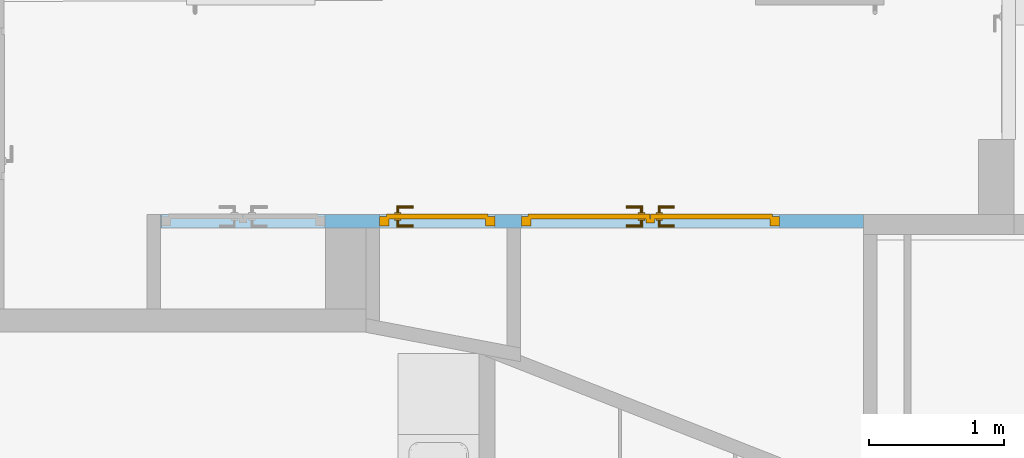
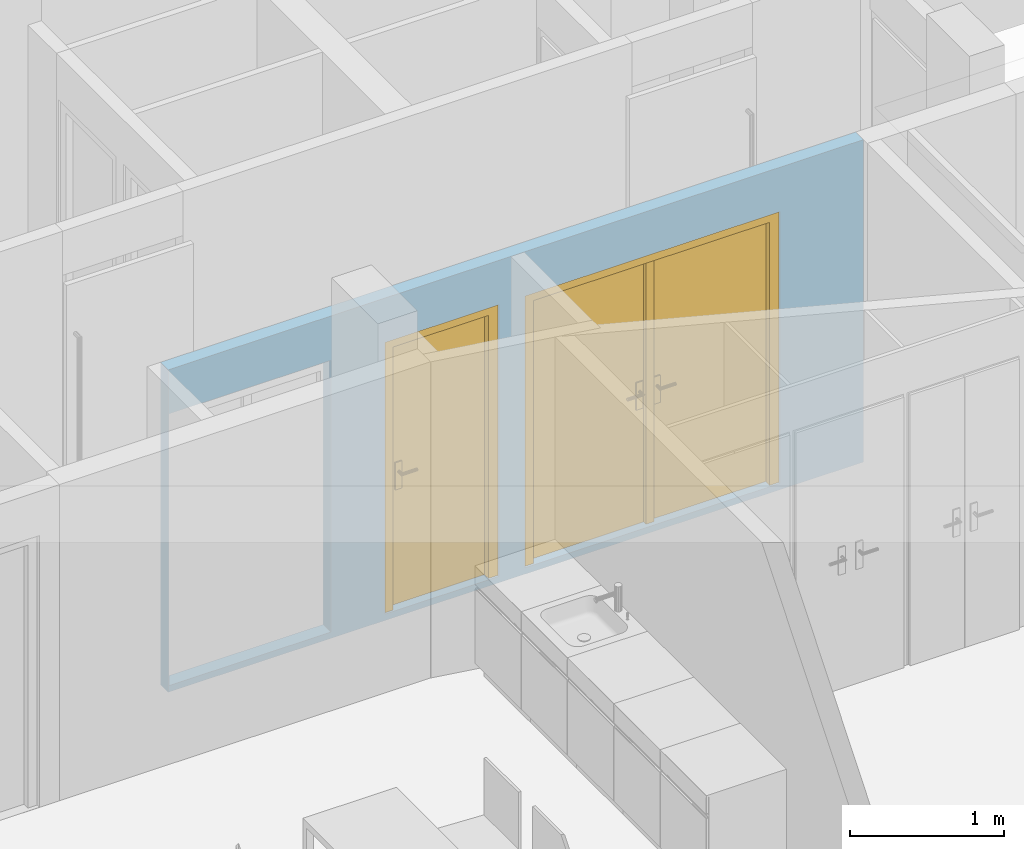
"""IFC4 building model written with IfcOpenShell, lengths in metres."""

from ifc_helpers import new_model, entity, si_unit, converted_unit, derived_unit, frame, frame_2d, origin, origin_with_axes, place, context, subcontext, project, spatial, polyline, rectangle, outline, extrude, faceted_brep, source, transform, mapped, material, layer, layer_set, layer_usage, element, fill, save


model = new_model("IFC4")

# Units and contexts
model_context = context("Model", 3, precision=1e-05, world=origin())
body_context = subcontext(model_context, "Body", "Model", "MODEL_VIEW")
ifc_project = project(units=[si_unit("LENGTHUNIT", "METRE"), si_unit("AREAUNIT", "SQUARE_METRE"), si_unit("VOLUMEUNIT", "CUBIC_METRE"), si_unit("MASSUNIT", "GRAM", prefix="KILO"), converted_unit("PLANEANGLEUNIT", "DEGREE", entity("IfcPlaneAngleMeasure", 0.0174532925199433), si_unit("PLANEANGLEUNIT", "RADIAN"), dimensions=[0, 0, 0, 0, 0, 0, 0]), derived_unit("THERMALTRANSMITTANCEUNIT", [(si_unit("POWERUNIT", "WATT"), 1), (si_unit("THERMODYNAMICTEMPERATUREUNIT", "KELVIN"), -1), (si_unit("LENGTHUNIT", "METRE"), -2)]), derived_unit("VOLUMETRICFLOWRATEUNIT", [(si_unit("LENGTHUNIT", "METRE"), 3), (converted_unit("TIMEUNIT", "hour", entity("IfcTimeMeasure", 3600.0), si_unit("TIMEUNIT", "SECOND"), dimensions=[0, 0, 1, 0, 0, 0, 0]), -1), (si_unit("LENGTHUNIT", "METRE"), -1)])], contexts=[model_context])

# Building, storeys
building_placement = place(None, origin())
building = spatial("IfcBuilding", under=ifc_project, at=building_placement, Name="HABITATGE PLURIFAMILIAR", CompositionType="ELEMENT")
storey_1_placement = place(building_placement, frame((0.0, 0.0, 3.35)))
storey_1 = spatial("IfcBuildingStorey", under=building, at=storey_1_placement, Name="PLANTA  ALTELL", CompositionType="ELEMENT", Elevation=3.35)
storey_2_placement = place(storey_1_placement, origin())
storey_2 = spatial("IfcBuildingStorey", under=storey_1, at=storey_2_placement, Name="NOU", CompositionType="PARTIAL")

# Wall, openings, doors
ifc_material = material()
ifc_layer = layer(ifc_material, 0.1)
ifc_layer_set = layer_set([ifc_layer])
ifc_layer_usage = layer_usage(ifc_layer_set, "AXIS2", "POSITIVE", 0.0)
wall_placement = place(storey_2_placement, frame((409.716597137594, 24.3495914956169, -0.05), z_axis=(0.0, 0.0, 1.0), x_axis=(-1.0, 0.0, 0.0)))
wall = element("IfcWall", 1, at=wall_placement, inside=storey_2, material=ifc_layer_usage, Name="Evans PA", context=body_context, shape_type="SweptSolid", body=[
    extrude(rectangle(XDim=5.20093041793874, YDim=0.1, at=frame_2d((2.60046520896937, 0.05), x_axis=(1.0, 0.0))), origin_with_axes(), (0.0, 0.0, 1.0), 2.55),
])
opening_1_placement = place(wall_placement, frame((5.1938556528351, 0.1, 0.05), z_axis=(0.0, -1.0, 0.0), x_axis=(0.0, 0.0, 1.0)))
element("IfcOpeningElement", 2, at=opening_1_placement, cuts=wall, Name="Vano de puerta PA", ObjectType="Opening", context=body_context, shape_type="SweptSolid", body=[
    extrude(outline(polyline([(2.15, 1.20933157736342), (2.15, 0.0), (0.0, 0.0), (0.0, 1.20933157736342), (2.15, 1.20933157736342)])), origin_with_axes(), (0.0, 0.0, 1.0), 0.1),
])
opening_2_placement = place(wall_placement, frame((2.53158838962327, 0.1, 0.05), z_axis=(0.0, -1.0, 0.0), x_axis=(0.0, 0.0, 1.0)))
opening_2 = element("IfcOpeningElement", 3, at=opening_2_placement, cuts=wall, Name="Vano de puerta PA", ObjectType="Opening", context=body_context, shape_type="SweptSolid", body=[
    extrude(outline(polyline([(2.15, 1.90908991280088), (2.15, 0.0), (0.0, 0.0), (0.0, 1.90908991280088), (2.15, 1.90908991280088)])), origin_with_axes(), (0.0, 0.0, 1.0), 0.1),
])
opening_3_placement = place(wall_placement, frame((2.72701034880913, 0.0, 0.05), z_axis=(0.0, 1.0, 0.0), x_axis=(0.0, 0.0, 1.0)))
opening_3 = element("IfcOpeningElement", 4, at=opening_3_placement, cuts=wall, Name="Vano de puerta PA", ObjectType="Opening", context=body_context, shape_type="SweptSolid", body=[
    extrude(outline(polyline([(2.15, 0.853177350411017), (2.15, 0.0), (0.0, 0.0), (0.0, 0.853177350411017), (2.15, 0.853177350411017)])), origin_with_axes(), (0.0, 0.0, 1.0), 0.1),
])
shared_shape_1 = source(origin_with_axes(), body_context, "Body", "Brep", [
    faceted_brep([(0.0, 0.07, 2.15), (0.0, 0.07, 0.0), (0.07, 0.07, 0.0), (0.07, 0.07, 2.15), (0.0, 0.0, 0.0), (0.0, 0.0, 2.15), (0.07, 0.0, 2.15), (0.07, 0.0, 0.0)], [[[0, 1, 2, 3]], [[4, 5, 6, 7]], [[1, 0, 5, 4]], [[2, 1, 4, 7]], [[3, 2, 7, 6]], [[0, 3, 6, 5]]], orient=[[False], [False], [False], [False], [False], [False]]),
    faceted_brep([(1.83908991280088, 0.07, 2.15), (1.83908991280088, 0.07, 0.0), (1.90908991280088, 0.07, 0.0), (1.90908991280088, 0.07, 2.15), (1.83908991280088, 0.0, 0.0), (1.83908991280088, 0.0, 2.15), (1.90908991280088, 0.0, 2.15), (1.90908991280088, 0.0, 0.0)], [[[0, 1, 2, 3]], [[4, 5, 6, 7]], [[1, 0, 5, 4]], [[2, 1, 4, 7]], [[3, 2, 7, 6]], [[0, 3, 6, 5]]], orient=[[False], [False], [False], [False], [False], [False]]),
    faceted_brep([(0.07, 0.07, 2.15), (0.07, 0.07, 2.08), (1.83908991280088, 0.07, 2.08), (1.83908991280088, 0.07, 2.15), (0.07, 0.0, 2.08), (0.07, 0.0, 2.15), (1.83908991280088, 0.0, 2.15), (1.83908991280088, 0.0, 2.08)], [[[0, 1, 2, 3]], [[4, 5, 6, 7]], [[1, 0, 5, 4]], [[2, 1, 4, 7]], [[3, 2, 7, 6]], [[0, 3, 6, 5]]], orient=[[False], [False], [False], [False], [False], [False]]),
    faceted_brep([(0.05, 0.09, 2.1), (0.05, 0.09, 0.0), (0.954044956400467, 0.09, 0.0), (0.954044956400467, 0.09, 2.1), (0.05, 0.05, 0.0), (0.05, 0.05, 2.1), (0.954044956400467, 0.05, 2.1), (0.954044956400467, 0.05, 0.0)], [[[0, 1, 2, 3]], [[4, 5, 6, 7]], [[1, 0, 5, 4]], [[2, 1, 4, 7]], [[3, 2, 7, 6]], [[0, 3, 6, 5]]], orient=[[False], [False], [False], [False], [False], [False]]),
    faceted_brep([(0.924044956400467, 0.05, 2.08), (0.924044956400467, 0.05, 0.0), (0.984044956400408, 0.05, 0.0), (0.984044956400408, 0.05, 2.08), (0.924044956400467, 0.02, 0.0), (0.924044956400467, 0.02, 2.08), (0.984044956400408, 0.02, 2.08), (0.984044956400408, 0.02, 0.0)], [[[0, 1, 2, 3]], [[4, 5, 6, 7]], [[1, 0, 5, 4]], [[2, 1, 4, 7]], [[3, 2, 7, 6]], [[0, 3, 6, 5]]], orient=[[False], [False], [False], [False], [False], [False]]),
    faceted_brep([(0.864044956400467, 0.05, 1.125), (0.864044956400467, 0.05, 0.91), (0.914044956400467, 0.05, 0.91), (0.914044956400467, 0.05, 1.125), (0.864044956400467, 0.04, 0.91), (0.864044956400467, 0.04, 1.125), (0.914044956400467, 0.04, 1.125), (0.914044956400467, 0.04, 0.91)], [[[0, 1, 2, 3]], [[4, 5, 6, 7]], [[1, 0, 5, 4]], [[2, 1, 4, 7]], [[3, 2, 7, 6]], [[0, 3, 6, 5]]], orient=[[False], [False], [False], [False], [False], [False]]),
    faceted_brep([(0.889044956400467, 0.04, 1.06), (0.884044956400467, 0.04, 1.05866025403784), (0.880384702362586, 0.04, 1.055), (0.879044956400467, 0.04, 1.05), (0.880384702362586, 0.04, 1.045), (0.884044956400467, 0.04, 1.04133974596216), (0.889044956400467, 0.04, 1.04), (0.894044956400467, 0.04, 1.04133974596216), (0.897705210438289, 0.04, 1.045), (0.899044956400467, 0.04, 1.05), (0.897705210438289, 0.04, 1.055), (0.894044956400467, 0.04, 1.05866025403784), (0.894044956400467, -0.005, 1.05866025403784), (0.889044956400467, 0.0, 1.06), (0.897705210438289, -0.00866025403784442, 1.055), (0.899044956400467, -0.01, 1.05), (0.897705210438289, -0.00866025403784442, 1.045), (0.894044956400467, -0.005, 1.04133974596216), (0.889044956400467, 0.0, 1.04), (0.884044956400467, 0.005, 1.04133974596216), (0.880384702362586, 0.00866025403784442, 1.045), (0.879044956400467, 0.01, 1.05), (0.880384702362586, 0.00866025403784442, 1.055), (0.884044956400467, 0.005, 1.05866025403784), (0.774044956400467, 0.0, 1.06), (0.774044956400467, -0.005, 1.05866025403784), (0.774044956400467, -0.00866025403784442, 1.055), (0.774044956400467, -0.01, 1.05), (0.774044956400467, -0.00866025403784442, 1.045), (0.774044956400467, -0.005, 1.04133974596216), (0.774044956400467, 0.0, 1.04), (0.774044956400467, 0.005, 1.04133974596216), (0.774044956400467, 0.00866025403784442, 1.045), (0.774044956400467, 0.01, 1.05), (0.774044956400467, 0.00866025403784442, 1.055), (0.774044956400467, 0.005, 1.05866025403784)], [[[0, 1, 2, 3, 4, 5, 6, 7, 8, 9, 10, 11]], [[0, 11, 12, 13]], [[11, 10, 14, 12]], [[10, 9, 15, 14]], [[9, 8, 16, 15]], [[8, 7, 17, 16]], [[7, 6, 18, 17]], [[6, 5, 19, 18]], [[5, 4, 20, 19]], [[4, 3, 21, 20]], [[3, 2, 22, 21]], [[2, 1, 23, 22]], [[1, 0, 13, 23]], [[24, 25, 26, 27, 28, 29, 30, 31, 32, 33, 34, 35]], [[13, 12, 25, 24]], [[12, 14, 26, 25]], [[14, 15, 27, 26]], [[15, 16, 28, 27]], [[16, 17, 29, 28]], [[17, 18, 30, 29]], [[18, 19, 31, 30]], [[19, 20, 32, 31]], [[20, 21, 33, 32]], [[21, 22, 34, 33]], [[22, 23, 35, 34]], [[23, 13, 24, 35]]], orient=[[False], [False], [False], [False], [False], [False], [False], [False], [False], [False], [False], [False], [False], [False], [False], [False], [False], [False], [False], [False], [False], [False], [False], [False], [False], [False]]),
    faceted_brep([(0.864044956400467, 0.09, 1.125), (0.914044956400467, 0.09, 1.125), (0.914044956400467, 0.09, 0.91), (0.864044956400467, 0.09, 0.91), (0.864044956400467, 0.1, 0.91), (0.914044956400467, 0.1, 0.91), (0.914044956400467, 0.1, 1.125), (0.864044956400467, 0.1, 1.125)], [[[0, 1, 2, 3]], [[4, 5, 6, 7]], [[3, 4, 7, 0]], [[2, 5, 4, 3]], [[1, 6, 5, 2]], [[0, 7, 6, 1]]], orient=[[False], [False], [False], [False], [False], [False]]),
    faceted_brep([(0.889044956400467, 0.1, 1.06), (0.894044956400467, 0.1, 1.05866025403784), (0.897705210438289, 0.1, 1.055), (0.899044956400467, 0.1, 1.05), (0.897705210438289, 0.1, 1.045), (0.894044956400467, 0.1, 1.04133974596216), (0.889044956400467, 0.1, 1.04), (0.884044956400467, 0.1, 1.04133974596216), (0.880384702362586, 0.1, 1.045), (0.879044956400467, 0.1, 1.05), (0.880384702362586, 0.1, 1.055), (0.884044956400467, 0.1, 1.05866025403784), (0.889044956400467, 0.14, 1.06), (0.894044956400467, 0.145, 1.05866025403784), (0.897705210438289, 0.148660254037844, 1.055), (0.899044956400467, 0.15, 1.05), (0.897705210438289, 0.148660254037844, 1.045), (0.894044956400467, 0.145, 1.04133974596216), (0.889044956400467, 0.14, 1.04), (0.884044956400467, 0.135, 1.04133974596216), (0.880384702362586, 0.131339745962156, 1.045), (0.879044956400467, 0.13, 1.05), (0.880384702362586, 0.131339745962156, 1.055), (0.884044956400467, 0.135, 1.05866025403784), (0.774044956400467, 0.14, 1.06), (0.774044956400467, 0.135, 1.05866025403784), (0.774044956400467, 0.131339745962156, 1.055), (0.774044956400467, 0.13, 1.05), (0.774044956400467, 0.131339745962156, 1.045), (0.774044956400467, 0.135, 1.04133974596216), (0.774044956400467, 0.14, 1.04), (0.774044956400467, 0.145, 1.04133974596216), (0.774044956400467, 0.148660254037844, 1.045), (0.774044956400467, 0.15, 1.05), (0.774044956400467, 0.148660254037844, 1.055), (0.774044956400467, 0.145, 1.05866025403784)], [[[0, 1, 2, 3, 4, 5, 6, 7, 8, 9, 10, 11]], [[0, 12, 13, 1]], [[1, 13, 14, 2]], [[2, 14, 15, 3]], [[3, 15, 16, 4]], [[4, 16, 17, 5]], [[5, 17, 18, 6]], [[6, 18, 19, 7]], [[7, 19, 20, 8]], [[8, 20, 21, 9]], [[9, 21, 22, 10]], [[10, 22, 23, 11]], [[11, 23, 12, 0]], [[24, 25, 26, 27, 28, 29, 30, 31, 32, 33, 34, 35]], [[12, 24, 35, 13]], [[13, 35, 34, 14]], [[14, 34, 33, 15]], [[15, 33, 32, 16]], [[16, 32, 31, 17]], [[17, 31, 30, 18]], [[18, 30, 29, 19]], [[19, 29, 28, 20]], [[20, 28, 27, 21]], [[21, 27, 26, 22]], [[22, 26, 25, 23]], [[23, 25, 24, 12]]], orient=[[False], [False], [False], [False], [False], [False], [False], [False], [False], [False], [False], [False], [False], [False], [False], [False], [False], [False], [False], [False], [False], [False], [False], [False], [False], [False]]),
    faceted_brep([(0.955044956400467, 0.09, 2.1), (0.955044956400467, 0.09, 0.0), (1.85908991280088, 0.09, 0.0), (1.85908991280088, 0.09, 2.1), (0.955044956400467, 0.05, 0.0), (0.955044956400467, 0.05, 2.1), (1.85908991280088, 0.05, 2.1), (1.85908991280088, 0.05, 0.0)], [[[0, 1, 2, 3]], [[4, 5, 6, 7]], [[1, 0, 5, 4]], [[2, 1, 4, 7]], [[3, 2, 7, 6]], [[0, 3, 6, 5]]], orient=[[False], [False], [False], [False], [False], [False]]),
    faceted_brep([(0.995044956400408, 0.05, 1.125), (0.995044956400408, 0.05, 0.91), (1.04504495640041, 0.05, 0.91), (1.04504495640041, 0.05, 1.125), (0.995044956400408, 0.04, 0.91), (0.995044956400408, 0.04, 1.125), (1.04504495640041, 0.04, 1.125), (1.04504495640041, 0.04, 0.91)], [[[0, 1, 2, 3]], [[4, 5, 6, 7]], [[1, 0, 5, 4]], [[2, 1, 4, 7]], [[3, 2, 7, 6]], [[0, 3, 6, 5]]], orient=[[False], [False], [False], [False], [False], [False]]),
    faceted_brep([(1.02004495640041, 0.04, 1.06), (1.01504495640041, 0.04, 1.05866025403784), (1.01138470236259, 0.04, 1.055), (1.01004495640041, 0.04, 1.05), (1.01138470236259, 0.04, 1.045), (1.01504495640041, 0.04, 1.04133974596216), (1.02004495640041, 0.04, 1.04), (1.02504495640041, 0.04, 1.04133974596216), (1.02870521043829, 0.04, 1.045), (1.03004495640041, 0.04, 1.05), (1.02870521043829, 0.04, 1.055), (1.02504495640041, 0.04, 1.05866025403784), (1.02004495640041, 0.0, 1.06), (1.01504495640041, -0.005, 1.05866025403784), (1.01138470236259, -0.00866025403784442, 1.055), (1.01004495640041, -0.01, 1.05), (1.01138470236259, -0.00866025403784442, 1.045), (1.01504495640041, -0.005, 1.04133974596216), (1.02004495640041, 0.0, 1.04), (1.02504495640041, 0.005, 1.04133974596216), (1.02870521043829, 0.00866025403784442, 1.045), (1.03004495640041, 0.01, 1.05), (1.02870521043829, 0.00866025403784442, 1.055), (1.02504495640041, 0.005, 1.05866025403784), (1.13504495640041, 0.0, 1.06), (1.13504495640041, 0.005, 1.05866025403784), (1.13504495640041, 0.00866025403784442, 1.055), (1.13504495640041, 0.01, 1.05), (1.13504495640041, 0.00866025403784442, 1.045), (1.13504495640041, 0.005, 1.04133974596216), (1.13504495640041, 0.0, 1.04), (1.13504495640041, -0.005, 1.04133974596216), (1.13504495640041, -0.00866025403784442, 1.045), (1.13504495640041, -0.01, 1.05), (1.13504495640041, -0.00866025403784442, 1.055), (1.13504495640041, -0.005, 1.05866025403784)], [[[0, 1, 2, 3, 4, 5, 6, 7, 8, 9, 10, 11]], [[0, 12, 13, 1]], [[1, 13, 14, 2]], [[2, 14, 15, 3]], [[3, 15, 16, 4]], [[4, 16, 17, 5]], [[5, 17, 18, 6]], [[6, 18, 19, 7]], [[7, 19, 20, 8]], [[8, 20, 21, 9]], [[9, 21, 22, 10]], [[10, 22, 23, 11]], [[11, 23, 12, 0]], [[24, 25, 26, 27, 28, 29, 30, 31, 32, 33, 34, 35]], [[12, 24, 35, 13]], [[13, 35, 34, 14]], [[14, 34, 33, 15]], [[15, 33, 32, 16]], [[16, 32, 31, 17]], [[17, 31, 30, 18]], [[18, 30, 29, 19]], [[19, 29, 28, 20]], [[20, 28, 27, 21]], [[21, 27, 26, 22]], [[22, 26, 25, 23]], [[23, 25, 24, 12]]], orient=[[False], [False], [False], [False], [False], [False], [False], [False], [False], [False], [False], [False], [False], [False], [False], [False], [False], [False], [False], [False], [False], [False], [False], [False], [False], [False]]),
    faceted_brep([(0.995044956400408, 0.09, 1.125), (1.04504495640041, 0.09, 1.125), (1.04504495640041, 0.09, 0.91), (0.995044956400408, 0.09, 0.91), (0.995044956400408, 0.1, 0.91), (1.04504495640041, 0.1, 0.91), (1.04504495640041, 0.1, 1.125), (0.995044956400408, 0.1, 1.125)], [[[0, 1, 2, 3]], [[4, 5, 6, 7]], [[3, 4, 7, 0]], [[2, 5, 4, 3]], [[1, 6, 5, 2]], [[0, 7, 6, 1]]], orient=[[False], [False], [False], [False], [False], [False]]),
    faceted_brep([(1.02004495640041, 0.1, 1.06), (1.02504495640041, 0.1, 1.05866025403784), (1.02870521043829, 0.1, 1.055), (1.03004495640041, 0.1, 1.05), (1.02870521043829, 0.1, 1.045), (1.02504495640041, 0.1, 1.04133974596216), (1.02004495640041, 0.1, 1.04), (1.01504495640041, 0.1, 1.04133974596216), (1.01138470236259, 0.1, 1.045), (1.01004495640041, 0.1, 1.05), (1.01138470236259, 0.1, 1.055), (1.01504495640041, 0.1, 1.05866025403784), (1.01504495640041, 0.145, 1.05866025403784), (1.02004495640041, 0.14, 1.06), (1.01138470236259, 0.148660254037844, 1.055), (1.01004495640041, 0.15, 1.05), (1.01138470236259, 0.148660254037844, 1.045), (1.01504495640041, 0.145, 1.04133974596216), (1.02004495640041, 0.14, 1.04), (1.02504495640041, 0.135, 1.04133974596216), (1.02870521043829, 0.131339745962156, 1.045), (1.03004495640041, 0.13, 1.05), (1.02870521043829, 0.131339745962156, 1.055), (1.02504495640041, 0.135, 1.05866025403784), (1.13504495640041, 0.14, 1.06), (1.13504495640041, 0.145, 1.05866025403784), (1.13504495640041, 0.148660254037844, 1.055), (1.13504495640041, 0.15, 1.05), (1.13504495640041, 0.148660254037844, 1.045), (1.13504495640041, 0.145, 1.04133974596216), (1.13504495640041, 0.14, 1.04), (1.13504495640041, 0.135, 1.04133974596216), (1.13504495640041, 0.131339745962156, 1.045), (1.13504495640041, 0.13, 1.05), (1.13504495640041, 0.131339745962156, 1.055), (1.13504495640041, 0.135, 1.05866025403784)], [[[0, 1, 2, 3, 4, 5, 6, 7, 8, 9, 10, 11]], [[0, 11, 12, 13]], [[11, 10, 14, 12]], [[10, 9, 15, 14]], [[9, 8, 16, 15]], [[8, 7, 17, 16]], [[7, 6, 18, 17]], [[6, 5, 19, 18]], [[5, 4, 20, 19]], [[4, 3, 21, 20]], [[3, 2, 22, 21]], [[2, 1, 23, 22]], [[1, 0, 13, 23]], [[24, 25, 26, 27, 28, 29, 30, 31, 32, 33, 34, 35]], [[13, 12, 25, 24]], [[12, 14, 26, 25]], [[14, 15, 27, 26]], [[15, 16, 28, 27]], [[16, 17, 29, 28]], [[17, 18, 30, 29]], [[18, 19, 31, 30]], [[19, 20, 32, 31]], [[20, 21, 33, 32]], [[21, 22, 34, 33]], [[22, 23, 35, 34]], [[23, 13, 24, 35]]], orient=[[False], [False], [False], [False], [False], [False], [False], [False], [False], [False], [False], [False], [False], [False], [False], [False], [False], [False], [False], [False], [False], [False], [False], [False], [False], [False]]),
])
door_1_placement = place(opening_2_placement, frame((0.0, 0.0, 0.015), z_axis=(1.0, 0.0, 0.0), x_axis=(0.0, 1.0, 0.0)))
door_1 = element("IfcDoor", 5, at=door_1_placement, inside=storey_2, Name="Porta PA", OperationType="USERDEFINED", OverallHeight=2.15, OverallWidth=1.90909, PredefinedType="DOOR", context=body_context, shape_type="MappedRepresentation", body=[
    mapped(shared_shape_1, transform((0.0, 0.0, 0.0), x_axis=(1.0, 0.0, 0.0), y_axis=(0.0, 1.0, 0.0), z_axis=(0.0, 0.0, 1.0), scale=1.0)),
])
fill(opening_2, door_1)
shared_shape_2 = source(origin_with_axes(), body_context, "Body", "Brep", [
    faceted_brep([(0.0, 0.07, 2.15), (0.0, 0.07, 0.0), (0.07, 0.07, 0.0), (0.07, 0.07, 2.15), (0.0, 0.0, 0.0), (0.0, 0.0, 2.15), (0.07, 0.0, 2.15), (0.07, 0.0, 0.0)], [[[0, 1, 2, 3]], [[4, 5, 6, 7]], [[1, 0, 5, 4]], [[2, 1, 4, 7]], [[3, 2, 7, 6]], [[0, 3, 6, 5]]], orient=[[False], [False], [False], [False], [False], [False]]),
    faceted_brep([(0.783177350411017, 0.07, 2.15), (0.783177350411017, 0.07, 0.0), (0.853177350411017, 0.07, 0.0), (0.853177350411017, 0.07, 2.15), (0.783177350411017, 0.0, 0.0), (0.783177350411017, 0.0, 2.15), (0.853177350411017, 0.0, 2.15), (0.853177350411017, 0.0, 0.0)], [[[0, 1, 2, 3]], [[4, 5, 6, 7]], [[1, 0, 5, 4]], [[2, 1, 4, 7]], [[3, 2, 7, 6]], [[0, 3, 6, 5]]], orient=[[False], [False], [False], [False], [False], [False]]),
    faceted_brep([(0.07, 0.07, 2.15), (0.07, 0.07, 2.08), (0.783177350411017, 0.07, 2.08), (0.783177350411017, 0.07, 2.15), (0.07, 0.0, 2.08), (0.07, 0.0, 2.15), (0.783177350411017, 0.0, 2.15), (0.783177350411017, 0.0, 2.08)], [[[0, 1, 2, 3]], [[4, 5, 6, 7]], [[1, 0, 5, 4]], [[2, 1, 4, 7]], [[3, 2, 7, 6]], [[0, 3, 6, 5]]], orient=[[False], [False], [False], [False], [False], [False]]),
    faceted_brep([(0.05, 0.09, 2.1), (0.05, 0.09, 0.0), (0.803177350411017, 0.09, 0.0), (0.803177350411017, 0.09, 2.1), (0.05, 0.05, 0.0), (0.05, 0.05, 2.1), (0.803177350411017, 0.05, 2.1), (0.803177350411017, 0.05, 0.0)], [[[0, 1, 2, 3]], [[4, 5, 6, 7]], [[1, 0, 5, 4]], [[2, 1, 4, 7]], [[3, 2, 7, 6]], [[0, 3, 6, 5]]], orient=[[False], [False], [False], [False], [False], [False]]),
    faceted_brep([(0.11, 0.05, 1.125), (0.11, 0.05, 0.91), (0.16, 0.05, 0.91), (0.16, 0.05, 1.125), (0.11, 0.04, 0.91), (0.11, 0.04, 1.125), (0.16, 0.04, 1.125), (0.16, 0.04, 0.91)], [[[0, 1, 2, 3]], [[4, 5, 6, 7]], [[1, 0, 5, 4]], [[2, 1, 4, 7]], [[3, 2, 7, 6]], [[0, 3, 6, 5]]], orient=[[False], [False], [False], [False], [False], [False]]),
    faceted_brep([(0.135, 0.04, 1.06), (0.13, 0.04, 1.05866025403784), (0.126339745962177, 0.04, 1.055), (0.125, 0.04, 1.05), (0.126339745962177, 0.04, 1.045), (0.13, 0.04, 1.04133974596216), (0.135, 0.04, 1.04), (0.14, 0.04, 1.04133974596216), (0.143660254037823, 0.04, 1.045), (0.145, 0.04, 1.05), (0.143660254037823, 0.04, 1.055), (0.14, 0.04, 1.05866025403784), (0.135, 0.0, 1.06), (0.13, -0.005, 1.05866025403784), (0.126339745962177, -0.00866025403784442, 1.055), (0.125, -0.01, 1.05), (0.126339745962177, -0.00866025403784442, 1.045), (0.13, -0.005, 1.04133974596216), (0.135, 0.0, 1.04), (0.14, 0.005, 1.04133974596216), (0.143660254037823, 0.00866025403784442, 1.045), (0.145, 0.01, 1.05), (0.143660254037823, 0.00866025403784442, 1.055), (0.14, 0.005, 1.05866025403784), (0.25, 0.0, 1.06), (0.25, 0.005, 1.05866025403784), (0.25, 0.00866025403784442, 1.055), (0.25, 0.01, 1.05), (0.25, 0.00866025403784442, 1.045), (0.25, 0.005, 1.04133974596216), (0.25, 0.0, 1.04), (0.25, -0.005, 1.04133974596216), (0.25, -0.00866025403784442, 1.045), (0.25, -0.01, 1.05), (0.25, -0.00866025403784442, 1.055), (0.25, -0.005, 1.05866025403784)], [[[0, 1, 2, 3, 4, 5, 6, 7, 8, 9, 10, 11]], [[0, 12, 13, 1]], [[1, 13, 14, 2]], [[2, 14, 15, 3]], [[3, 15, 16, 4]], [[4, 16, 17, 5]], [[5, 17, 18, 6]], [[6, 18, 19, 7]], [[7, 19, 20, 8]], [[8, 20, 21, 9]], [[9, 21, 22, 10]], [[10, 22, 23, 11]], [[11, 23, 12, 0]], [[24, 25, 26, 27, 28, 29, 30, 31, 32, 33, 34, 35]], [[12, 24, 35, 13]], [[13, 35, 34, 14]], [[14, 34, 33, 15]], [[15, 33, 32, 16]], [[16, 32, 31, 17]], [[17, 31, 30, 18]], [[18, 30, 29, 19]], [[19, 29, 28, 20]], [[20, 28, 27, 21]], [[21, 27, 26, 22]], [[22, 26, 25, 23]], [[23, 25, 24, 12]]], orient=[[False], [False], [False], [False], [False], [False], [False], [False], [False], [False], [False], [False], [False], [False], [False], [False], [False], [False], [False], [False], [False], [False], [False], [False], [False], [False]]),
    faceted_brep([(0.11, 0.09, 1.125), (0.16, 0.09, 1.125), (0.16, 0.09, 0.91), (0.11, 0.09, 0.91), (0.11, 0.1, 0.91), (0.16, 0.1, 0.91), (0.16, 0.1, 1.125), (0.11, 0.1, 1.125)], [[[0, 1, 2, 3]], [[4, 5, 6, 7]], [[3, 4, 7, 0]], [[2, 5, 4, 3]], [[1, 6, 5, 2]], [[0, 7, 6, 1]]], orient=[[False], [False], [False], [False], [False], [False]]),
    faceted_brep([(0.135, 0.1, 1.06), (0.14, 0.1, 1.05866025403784), (0.143660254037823, 0.1, 1.055), (0.145, 0.1, 1.05), (0.143660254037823, 0.1, 1.045), (0.14, 0.1, 1.04133974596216), (0.135, 0.1, 1.04), (0.13, 0.1, 1.04133974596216), (0.126339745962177, 0.1, 1.045), (0.125, 0.1, 1.05), (0.126339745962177, 0.1, 1.055), (0.13, 0.1, 1.05866025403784), (0.13, 0.145, 1.05866025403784), (0.135, 0.14, 1.06), (0.126339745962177, 0.148660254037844, 1.055), (0.125, 0.15, 1.05), (0.126339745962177, 0.148660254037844, 1.045), (0.13, 0.145, 1.04133974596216), (0.135, 0.14, 1.04), (0.14, 0.135, 1.04133974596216), (0.143660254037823, 0.131339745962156, 1.045), (0.145, 0.13, 1.05), (0.143660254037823, 0.131339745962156, 1.055), (0.14, 0.135, 1.05866025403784), (0.25, 0.14, 1.06), (0.25, 0.145, 1.05866025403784), (0.25, 0.148660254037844, 1.055), (0.25, 0.15, 1.05), (0.25, 0.148660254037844, 1.045), (0.25, 0.145, 1.04133974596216), (0.25, 0.14, 1.04), (0.25, 0.135, 1.04133974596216), (0.25, 0.131339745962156, 1.045), (0.25, 0.13, 1.05), (0.25, 0.131339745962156, 1.055), (0.25, 0.135, 1.05866025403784)], [[[0, 1, 2, 3, 4, 5, 6, 7, 8, 9, 10, 11]], [[0, 11, 12, 13]], [[11, 10, 14, 12]], [[10, 9, 15, 14]], [[9, 8, 16, 15]], [[8, 7, 17, 16]], [[7, 6, 18, 17]], [[6, 5, 19, 18]], [[5, 4, 20, 19]], [[4, 3, 21, 20]], [[3, 2, 22, 21]], [[2, 1, 23, 22]], [[1, 0, 13, 23]], [[24, 25, 26, 27, 28, 29, 30, 31, 32, 33, 34, 35]], [[13, 12, 25, 24]], [[12, 14, 26, 25]], [[14, 15, 27, 26]], [[15, 16, 28, 27]], [[16, 17, 29, 28]], [[17, 18, 30, 29]], [[18, 19, 31, 30]], [[19, 20, 32, 31]], [[20, 21, 33, 32]], [[21, 22, 34, 33]], [[22, 23, 35, 34]], [[23, 13, 24, 35]]], orient=[[False], [False], [False], [False], [False], [False], [False], [False], [False], [False], [False], [False], [False], [False], [False], [False], [False], [False], [False], [False], [False], [False], [False], [False], [False], [False]]),
])
door_2_placement = place(opening_3_placement, frame((0.0, 0.853177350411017, 0.085), z_axis=(1.0, 0.0, 0.0), x_axis=(0.0, -1.0, 0.0)))
door_2 = element("IfcDoor", 6, at=door_2_placement, inside=storey_2, Name="Porta PA", OperationType="USERDEFINED", OverallHeight=2.15, OverallWidth=0.85318, PredefinedType="DOOR", context=body_context, shape_type="MappedRepresentation", body=[
    mapped(shared_shape_2, transform((0.0, 0.0, 0.0), x_axis=(1.0, 0.0, 0.0), y_axis=(0.0, 1.0, 0.0), z_axis=(0.0, 0.0, 1.0), scale=1.0)),
])
fill(opening_3, door_2)

save(model, "model.ifc")
